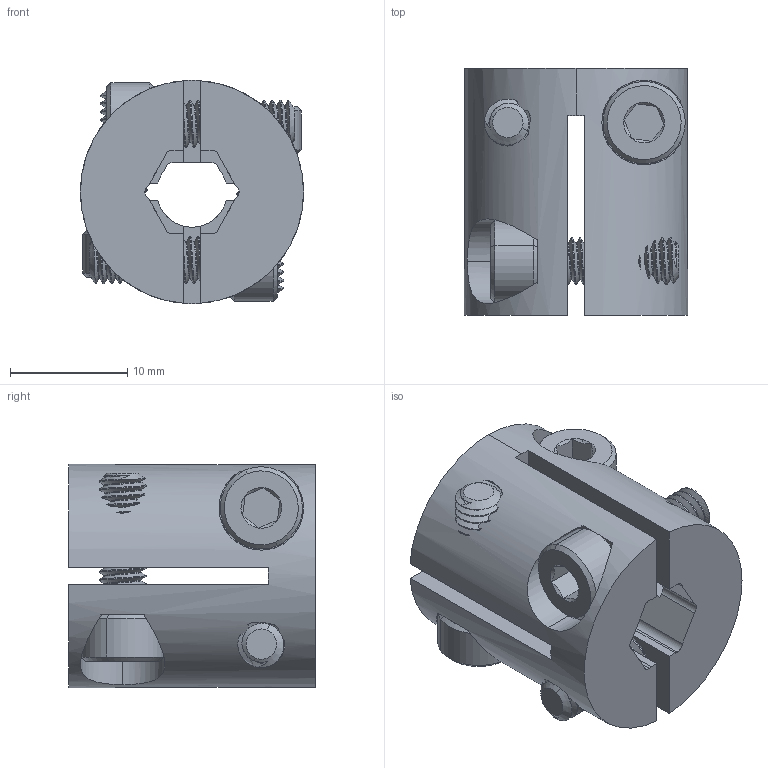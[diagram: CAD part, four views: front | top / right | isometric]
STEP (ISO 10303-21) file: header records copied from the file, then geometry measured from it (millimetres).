
FILE_DESCRIPTION (( 'STEP AP203' ), '1' );
FILE_NAME ('4007-1006-4008 assembly.STEP', '2019-06-06T19:43:34', ( '' ), ( '' ), 'SwSTEP 2.0', 'SolidWorks 2016', '' );
FILE_SCHEMA (( 'CONFIG_CONTROL_DESIGN' ));
Length unit declared in the file: millimetre
Products named in the file (3): 4007-1006-4008; 2800-0004-0012_90128A207; 4007-1006-4008 assembly
Assembly tree (5 placements, depth 2):
  4007-1006-4008 assembly
    4007-1006-4008
    2800-0004-0012_90128A207  x4
Bounding box: 19 x 21 x 19 mm (x, y, z)
Volume: 4556.1 mm3; surface area: 5148.5 mm2
Topology: 5 solids, 5 shells, 654 faces, 1864 edges, 1228 vertices
Faces by surface type: cylinder 485, plane 73, cone 52, bspline 44
Entity records: 55335 total; most frequent: CARTESIAN_POINT 46882, ORIENTED_EDGE 2174, DIRECTION 1222, EDGE_CURVE 1087, VERTEX_POINT 727, AXIS2_PLACEMENT_3D 446, EDGE_LOOP 390, ADVANCED_FACE 366
